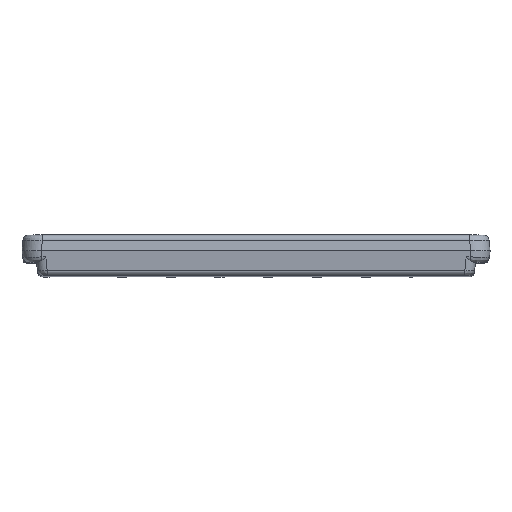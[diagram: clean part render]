
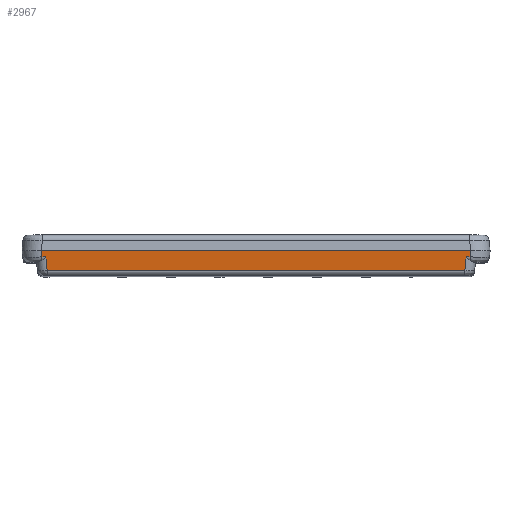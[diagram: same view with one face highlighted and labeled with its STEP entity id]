
A CAD part, top view. The second image highlights one B-rep face of the part: STEP entity #2967.
In plain terms, the highlighted planar face has unit normal (0, -0.087, 0.996).
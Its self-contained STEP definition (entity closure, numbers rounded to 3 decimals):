
#822=CARTESIAN_POINT('',(10.976,0.974,31.972));
#856=DIRECTION('',(-0.087,-0.992,-0.087));
#857=VECTOR('',#856,0.319);
#858=CARTESIAN_POINT('',(11.004,1.29,32.));
#859=LINE('',#858,#857);
#860=CARTESIAN_POINT('',(11.004,1.29,32.));
#872=DIRECTION('',(1.,0.,0.));
#873=VECTOR('',#872,22.008);
#874=CARTESIAN_POINT('',(-11.004,1.29,32.));
#875=LINE('',#874,#873);
#876=DIRECTION('',(1.,0.,0.));
#877=VECTOR('',#876,0.202);
#878=CARTESIAN_POINT('',(-10.976,0.974,31.972));
#879=LINE('',#878,#877);
#893=DIRECTION('',(0.087,-0.992,-0.087));
#894=VECTOR('',#893,0.705);
#895=CARTESIAN_POINT('',(-10.774,0.974,31.972));
#896=LINE('',#895,#894);
#925=CARTESIAN_POINT('',(-10.976,0.974,31.972));
#1022=DIRECTION('',(1.,0.,0.));
#1023=VECTOR('',#1022,21.426);
#1024=CARTESIAN_POINT('',(-10.713,0.274,
31.911));
#1025=LINE('',#1024,#1023);
#1035=CARTESIAN_POINT('',(10.713,0.274,31.911));
#1060=DIRECTION('',(0.087,0.992,0.087));
#1061=VECTOR('',#1060,0.705);
#1062=CARTESIAN_POINT('',(10.713,0.274,31.911));
#1063=LINE('',#1062,#1061);
#1074=DIRECTION('',(1.,0.,0.));
#1075=VECTOR('',#1074,0.202);
#1076=CARTESIAN_POINT('',(10.774,0.974,31.972));
#1077=LINE('',#1076,#1075);
#1226=CARTESIAN_POINT('',(-11.004,1.29,32.));
#1228=DIRECTION('',(0.087,-0.992,-0.087));
#1229=VECTOR('',#1228,0.319);
#1230=CARTESIAN_POINT('',(-11.004,1.29,32.));
#1231=LINE('',#1230,#1229);
#1320=VERTEX_POINT('',#860);
#1323=VERTEX_POINT('',#1226);
#1442=VERTEX_POINT('',#1035);
#1444=CARTESIAN_POINT('',(-10.713,0.274,
31.911));
#1445=VERTEX_POINT('',#1444);
#1472=VERTEX_POINT('',#925);
#1473=CARTESIAN_POINT('',(-10.774,0.974,
31.972));
#1474=VERTEX_POINT('',#1473);
#1475=VERTEX_POINT('',#822);
#1479=CARTESIAN_POINT('',(10.774,0.974,31.972));
#1480=VERTEX_POINT('',#1479);
#2946=CARTESIAN_POINT('',(-12.,1.29,32.));
#2947=DIRECTION('',(0.,-0.087,0.996));
#2948=DIRECTION('',(1.,0.,0.));
#2949=AXIS2_PLACEMENT_3D('',#2946,#2947,#2948);
#2950=PLANE('',#2949);
#2952=ORIENTED_EDGE('',*,*,#2951,.F.);
#2954=ORIENTED_EDGE('',*,*,#2953,.F.);
#2955=ORIENTED_EDGE('',*,*,#2490,.T.);
#2956=ORIENTED_EDGE('',*,*,#2939,.T.);
#2958=ORIENTED_EDGE('',*,*,#2957,.F.);
#2960=ORIENTED_EDGE('',*,*,#2959,.F.);
#2962=ORIENTED_EDGE('',*,*,#2961,.F.);
#2964=ORIENTED_EDGE('',*,*,#2963,.F.);
#2965=EDGE_LOOP('',(#2952,#2954,#2955,#2956,#2958,#2960,#2962,#2964));
#2966=FACE_OUTER_BOUND('',#2965,.F.);
#2490=EDGE_CURVE('',#1323,#1320,#875,.T.);
#2939=EDGE_CURVE('',#1320,#1475,#859,.T.);
#2951=EDGE_CURVE('',#1472,#1474,#879,.T.);
#2953=EDGE_CURVE('',#1323,#1472,#1231,.T.);
#2957=EDGE_CURVE('',#1480,#1475,#1077,.T.);
#2959=EDGE_CURVE('',#1442,#1480,#1063,.T.);
#2961=EDGE_CURVE('',#1445,#1442,#1025,.T.);
#2963=EDGE_CURVE('',#1474,#1445,#896,.T.);
#2967=ADVANCED_FACE('',(#2966),#2950,.T.);
